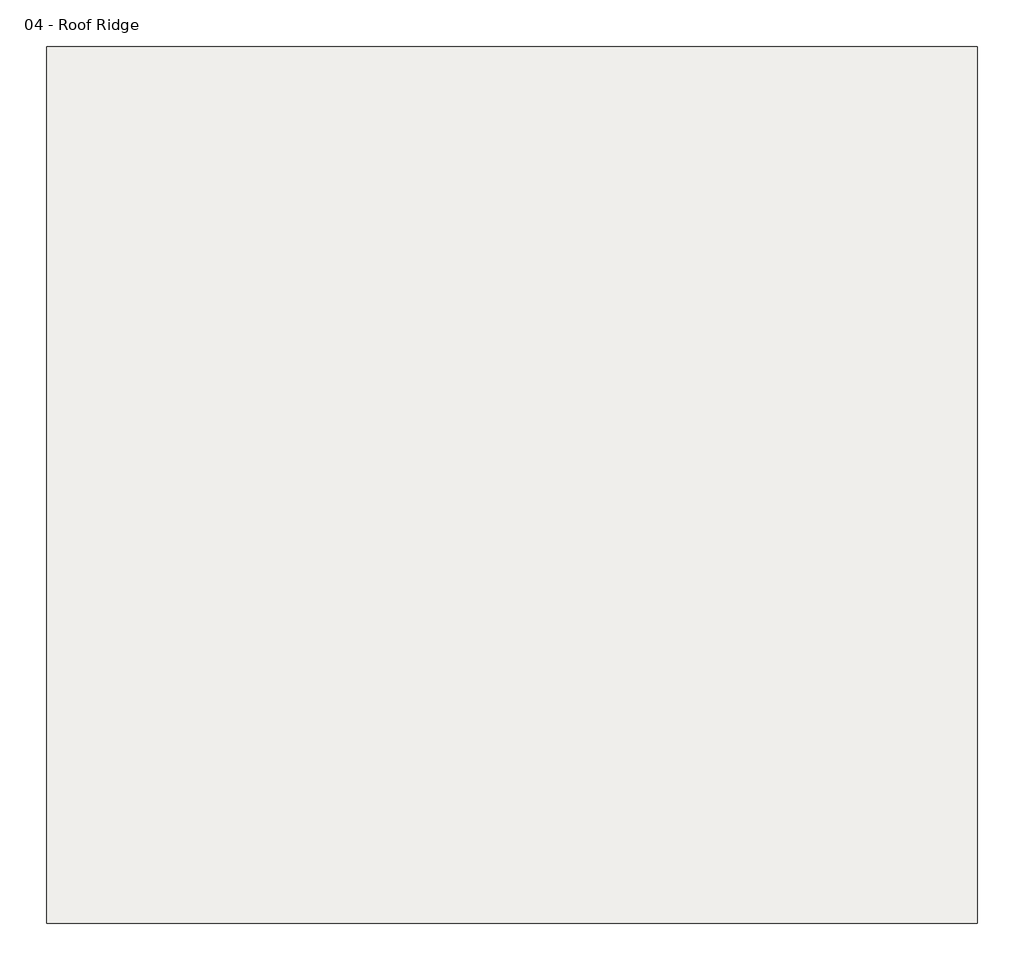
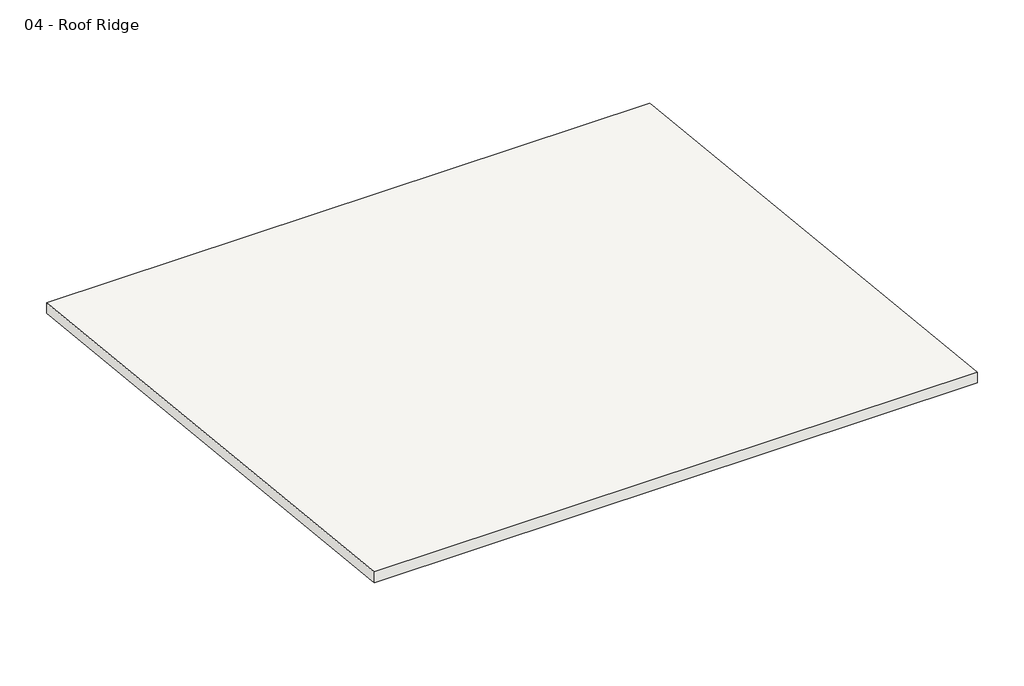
# One storey: 1 slab.
"""IFC4 building model written with IfcOpenShell, lengths in millimetres."""

from ifc_helpers import new_model, si_unit, frame, origin, place, context, project, spatial, polyline, outline, extrude, element, save

model = new_model("IFC4")

# Units and contexts
model_context = context("Model", 3, world=origin())
ifc_project = project(units=[si_unit("LENGTHUNIT", "METRE", prefix="MILLI")], contexts=[model_context])

# Site, building, storey
site = spatial("IfcSite", under=ifc_project)
building = spatial("IfcBuilding", under=site)
storey = spatial("IfcBuildingStorey", under=building, Name="04 - Roof Ridge", Elevation=16764.0)

# Slab
placement = place(None, origin())
element("IfcSlab", 1, ObjectType="6\" Concrete", at=placement, inside=storey, context=model_context, shape_type="SweptSolid", body=[
    extrude(outline(polyline([(-2679.7, 16610.7605382), (-10502.9, 17433.0119915), (-10502.9, 17586.2514533), (-2679.7, 16764.0), (-2679.7, 16610.7605382)])), frame((10248.9, 0.0, 0.0), z_axis=(1.0, 0.0, 0.0), x_axis=(0.0, 1.0, 0.0)), (0.0, 0.0, 1.0), 8305.8),
])

save(model, "model.ifc")
